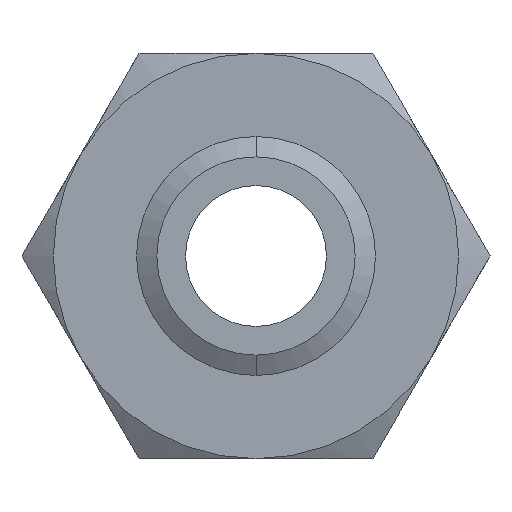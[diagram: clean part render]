
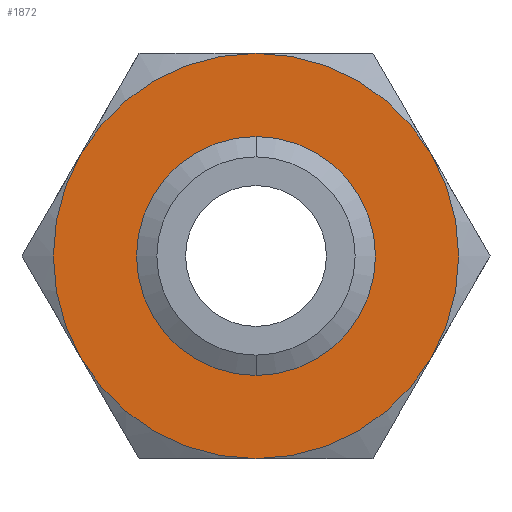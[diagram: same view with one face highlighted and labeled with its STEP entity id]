
A CAD part, front view. The second image highlights one B-rep face of the part: STEP entity #1872.
In plain terms, the highlighted planar face has unit normal (0, -1, 0).
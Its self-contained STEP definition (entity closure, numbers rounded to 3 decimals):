
#821 = DIRECTION ( 'NONE',  ( 0., 0., 1. ) ) ;
#822 = DIRECTION ( 'NONE',  ( 0., 1., 0. ) ) ;
#823 = CARTESIAN_POINT ( 'NONE',  ( 0., 0., 0. ) ) ;
#824 = AXIS2_PLACEMENT_3D ( 'NONE', #823, #822, #821 ) ;
#825 = CIRCLE ( 'NONE', #824, 47.5 ) ;
#843 = CARTESIAN_POINT ( 'NONE',  ( 0., 0., 0. ) ) ;
#844 = CIRCLE ( 'NONE', #907, 47.5 ) ;
#845 = DIRECTION ( 'NONE',  ( 0., 0., 1. ) ) ;
#846 = DIRECTION ( 'NONE',  ( 0., 1., 0. ) ) ;
#847 = CARTESIAN_POINT ( 'NONE',  ( 0., 0., 0. ) ) ;
#848 = AXIS2_PLACEMENT_3D ( 'NONE', #847, #846, #845 ) ;
#849 = CIRCLE ( 'NONE', #848, 47.5 ) ;
#850 = CARTESIAN_POINT ( 'NONE',  ( 41.136, 0., 23.75 ) ) ;
#851 = CARTESIAN_POINT ( 'NONE',  ( -41.136, 0., -23.75 ) ) ;
#852 = DIRECTION ( 'NONE',  ( 0., 0., 1. ) ) ;
#853 = DIRECTION ( 'NONE',  ( 0., 1., 0. ) ) ;
#854 = CARTESIAN_POINT ( 'NONE',  ( 27.424, 0., -47.5 ) ) ;
#855 = AXIS2_PLACEMENT_3D ( 'NONE', #854, #853, #852 ) ;
#856 = PLANE ( 'NONE',  #855 ) ;
#857 = FACE_BOUND ( 'NONE', #1890, .T. ) ;
#858 = FACE_OUTER_BOUND ( 'NONE', #1861, .T. ) ;
#863 = CARTESIAN_POINT ( 'NONE',  ( 0., 0., 47.5 ) ) ;
#882 = DIRECTION ( 'NONE',  ( 0., 0., 1. ) ) ;
#883 = DIRECTION ( 'NONE',  ( 0., 1., 0. ) ) ;
#884 = CARTESIAN_POINT ( 'NONE',  ( 0., 0., 0. ) ) ;
#885 = AXIS2_PLACEMENT_3D ( 'NONE', #884, #883, #882 ) ;
#886 = CIRCLE ( 'NONE', #885, 47.5 ) ;
#887 = DIRECTION ( 'NONE',  ( 0., 0., 1. ) ) ;
#888 = DIRECTION ( 'NONE',  ( 0., 1., 0. ) ) ;
#889 = AXIS2_PLACEMENT_3D ( 'NONE', #896, #888, #887 ) ;
#890 = CIRCLE ( 'NONE', #889, 47.5 ) ;
#891 = DIRECTION ( 'NONE',  ( 0., 0., -1. ) ) ;
#892 = DIRECTION ( 'NONE',  ( 0., -1., 0. ) ) ;
#893 = CARTESIAN_POINT ( 'NONE',  ( 0., 0., 0. ) ) ;
#894 = AXIS2_PLACEMENT_3D ( 'NONE', #893, #892, #891 ) ;
#895 = CIRCLE ( 'NONE', #894, 23.237 ) ;
#896 = CARTESIAN_POINT ( 'NONE',  ( 0., 0., 0. ) ) ;
#897 = CARTESIAN_POINT ( 'NONE',  ( 41.136, 0., -23.75 ) ) ;
#898 = CARTESIAN_POINT ( 'NONE',  ( -41.136, 0., 23.75 ) ) ;
#899 = CARTESIAN_POINT ( 'NONE',  ( 0., 0., -47.5 ) ) ;
#900 = DIRECTION ( 'NONE',  ( 0., 0., 1. ) ) ;
#901 = DIRECTION ( 'NONE',  ( 0., 1., 0. ) ) ;
#902 = CARTESIAN_POINT ( 'NONE',  ( 0., 0., 0. ) ) ;
#903 = AXIS2_PLACEMENT_3D ( 'NONE', #902, #901, #900 ) ;
#904 = CIRCLE ( 'NONE', #903, 47.5 ) ;
#905 = DIRECTION ( 'NONE',  ( 0., 0., 1. ) ) ;
#906 = DIRECTION ( 'NONE',  ( 0., 1., 0. ) ) ;
#907 = AXIS2_PLACEMENT_3D ( 'NONE', #843, #906, #905 ) ;
#1476 = CARTESIAN_POINT ( 'NONE',  ( 0., 0., -23.237 ) ) ;
#1481 = CARTESIAN_POINT ( 'NONE',  ( 0., 0., 23.237 ) ) ;
#1557 = DIRECTION ( 'NONE',  ( 0., 0., -1. ) ) ;
#1558 = DIRECTION ( 'NONE',  ( 0., -1., 0. ) ) ;
#1559 = AXIS2_PLACEMENT_3D ( 'NONE', #1570, #1558, #1557 ) ;
#1568 = CIRCLE ( 'NONE', #1559, 23.237 ) ;
#1570 = CARTESIAN_POINT ( 'NONE',  ( 0., 0., 0. ) ) ;
#1856 = EDGE_CURVE ( 'NONE', #1870, #1874, #825, .T. ) ;
#1861 = EDGE_LOOP ( 'NONE', ( #1875, #1877, #1879, #1878, #1893, #1892 ) ) ;
#1870 = VERTEX_POINT ( 'NONE', #863 ) ;
#1872 = ADVANCED_FACE ( 'NONE', ( #858, #857 ), #856, .F. ) ;
#1873 = VERTEX_POINT ( 'NONE', #851 ) ;
#1874 = VERTEX_POINT ( 'NONE', #850 ) ;
#1875 = ORIENTED_EDGE ( 'NONE', *, *, #1856, .F. ) ;
#1876 = EDGE_CURVE ( 'NONE', #1873, #1883, #849, .T. ) ;
#1877 = ORIENTED_EDGE ( 'NONE', *, *, #1881, .F. ) ;
#1878 = ORIENTED_EDGE ( 'NONE', *, *, #1880, .F. ) ;
#1879 = ORIENTED_EDGE ( 'NONE', *, *, #1876, .F. ) ;
#1880 = EDGE_CURVE ( 'NONE', #1882, #1873, #844, .T. ) ;
#1881 = EDGE_CURVE ( 'NONE', #1883, #1870, #904, .T. ) ;
#1882 = VERTEX_POINT ( 'NONE', #899 ) ;
#1883 = VERTEX_POINT ( 'NONE', #898 ) ;
#1884 = VERTEX_POINT ( 'NONE', #897 ) ;
#1887 = EDGE_CURVE ( 'NONE', #2152, #2155, #895, .T. ) ;
#1889 = EDGE_CURVE ( 'NONE', #1874, #1884, #890, .T. ) ;
#1890 = EDGE_LOOP ( 'NONE', ( #1895, #1896 ) ) ;
#1891 = EDGE_CURVE ( 'NONE', #1884, #1882, #886, .T. ) ;
#1892 = ORIENTED_EDGE ( 'NONE', *, *, #1889, .F. ) ;
#1893 = ORIENTED_EDGE ( 'NONE', *, *, #1891, .F. ) ;
#1895 = ORIENTED_EDGE ( 'NONE', *, *, #2197, .F. ) ;
#1896 = ORIENTED_EDGE ( 'NONE', *, *, #1887, .F. ) ;
#2152 = VERTEX_POINT ( 'NONE', #1481 ) ;
#2155 = VERTEX_POINT ( 'NONE', #1476 ) ;
#2197 = EDGE_CURVE ( 'NONE', #2155, #2152, #1568, .T. ) ;
